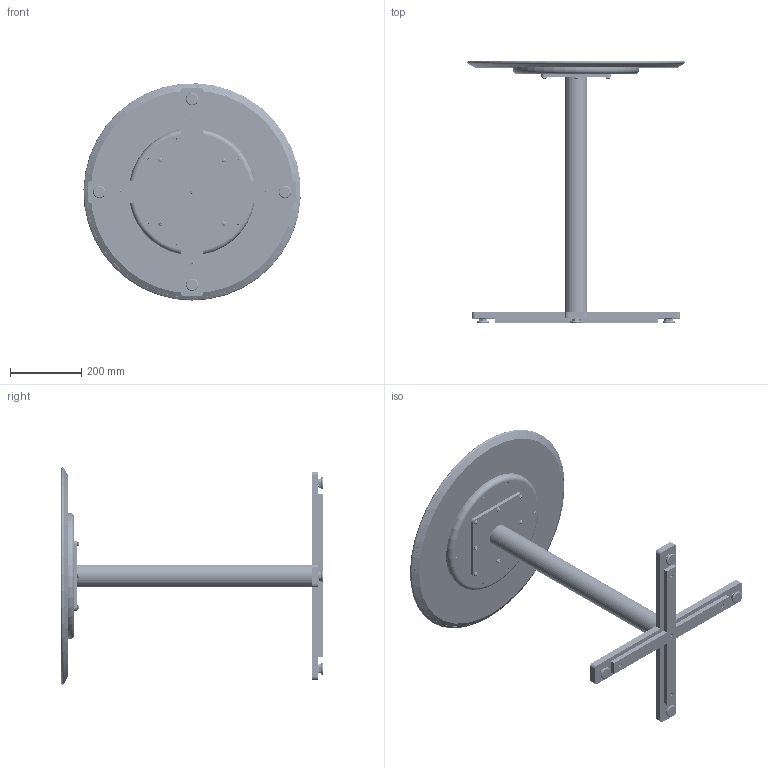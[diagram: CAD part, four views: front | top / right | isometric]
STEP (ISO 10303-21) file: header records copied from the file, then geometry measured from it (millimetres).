
FILE_DESCRIPTION(/* description */ ('CAPRI CAFE TABLE, 24" DIA X 29"H W/ WOOD TOP'),/* implementation_level */ '2;1');
FILE_NAME(/* name */ '3135.stp',/* time_stamp */ '2025-07-03T13:12:38-04:00',/* author */ ('emendoza'),/* organization */ (''),/* preprocessor_version */ 'ST-DEVELOPER v20',/* originating_system */ 'Autodesk Inventor 2025',/* authorisation */ '');
FILE_SCHEMA (('AUTOMOTIVE_DESIGN { 1 0 10303 214 3 1 1 }'));
Products named in the file (38): 3135; 3138-010; 3138-011; 3138-011_1; 3138-012 ; 3138-013; HD01-036; MEFA300 ; 3138-019; 3138-014 ; 3138-014 _1; 3138-015; 3138-016; 3138-016_1; HD01-127; HD01-167; PA013B; 3138-020; 3138-020_1; 3138-017; 3138-018; 3133-030 ; 3132-031; FA151; 3133-040; 3133-041 ; 3133-042; 3133-044; 3133-045; 3133-046; 3133-047; 3133-043; 3133-043_1; 3133-043_2; 3133-043_3; 3133-043_4; 95170-OS; FA012
Assembly tree (81 placements, depth 6):
  3135
    3138-010
      3138-011
        3138-011_1
        3138-012 
        3138-013  x2
        HD01-036  x5
        MEFA300   x4
      3138-019
      3138-014 
        3138-014 _1
        3138-015
        3138-016
        3138-016_1
      HD01-127  x6
      HD01-167  x5
      PA013B  x4
      3138-020
        3138-020_1
        3138-017
        3138-018  x2
    3133-030 
      3132-031
      FA151  x8
    3133-040
      3133-041 
        3133-042
          3133-044
            3133-045
            3133-046
            3133-047
          3133-043
          3133-043_1
          3133-043_2
          3133-043_3
          3133-043_4
    95170-OS  x8
    FA012  x10
Bounding box: 608.87 x 736.6 x 609.31 mm (x, y, z)
Volume: 9551779.5 mm3; surface area: 2664468.5 mm2
Topology: 106 solids, 106 shells, 4541 faces, 11823 edges, 7824 vertices
Faces by surface type: cylinder 1960, plane 1532, cone 836, bspline 136, torus 69, sphere 8
Full cylindrical faces by diameter (mm): 2.812 x90, 3.489 x10, 4.166 x90, 4.7 x423, 4.762 x10, 5.159 x6, 6.104 x20, 6.35 x432, 6.747 x1, 7.144 x22, 7.747 x13, 7.925 x4, 7.938 x41, 8.433 x10, 9.525 x15, 11.112 x12, 12.497 x8, 13.494 x1, 19.05 x5, 19.844 x8, 22.225 x2, 25.4 x3, 57.404 x1, 63.5 x1, 76.2 x1, 355.6 x1, 584.2 x1, 593.725 x3
Entity records: 53315 total; most frequent: CARTESIAN_POINT 25794, DIRECTION 5401, ORIENTED_EDGE 5328, EDGE_CURVE 2664, AXIS2_PLACEMENT_3D 2007, VERTEX_POINT 1763, LINE 1387, VECTOR 1387
